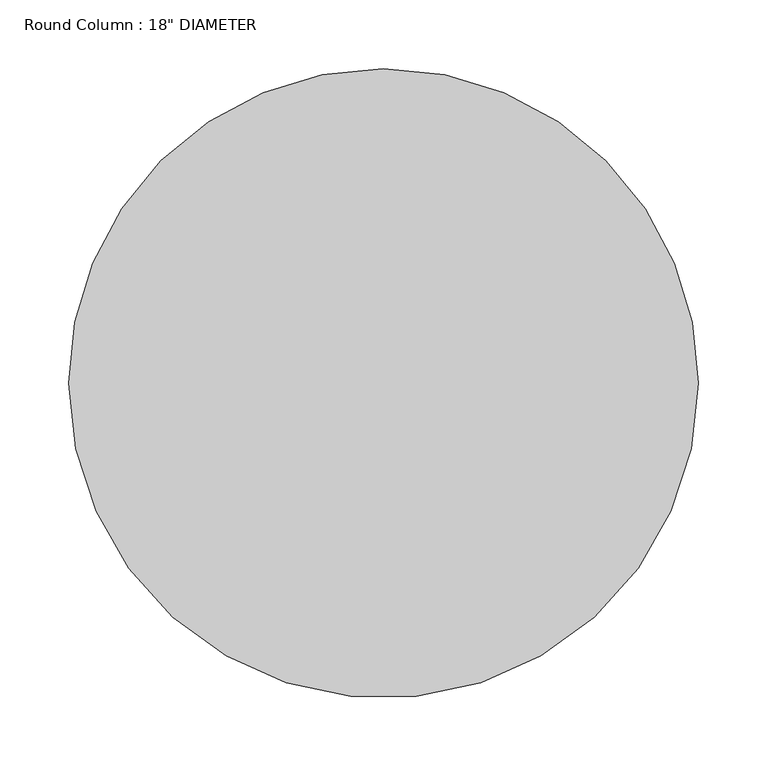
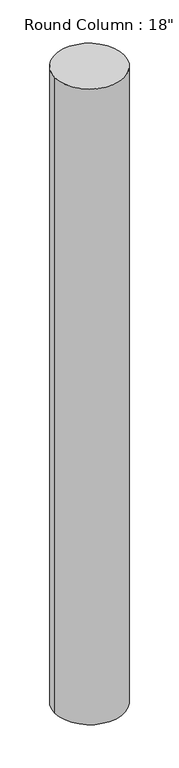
"""IFC4 building model written with IfcOpenShell, lengths in millimetres: column geometry."""

from ifc_helpers import new_model, si_unit, point, frame, origin, origin_2d, place, context, project, spatial, circle_curve, trimmed, segment, composite_curve, outline, extrude, source, transform, mapped, element, save


def column_3b8863fc(model_context):
    return source(origin(), model_context, "Body", "SweptSolid", [
        extrude(outline(composite_curve([segment(trimmed(circle_curve(origin_2d(), 228.6), [point((228.6, 0.0))], [point((-228.6, 0.0))], False, "CARTESIAN"), True, "CONTINUOUS"), segment(trimmed(circle_curve(origin_2d(), 228.6), [point((-228.6, 0.0))], [point((0.0, 228.6))], False, "CARTESIAN"), True, "CONTINUOUS"), segment(trimmed(circle_curve(origin_2d(), 228.6), [point((0.0, 228.6))], [point((228.6, 0.0))], False, "CARTESIAN"), True, "CONTINUOUS")], self_intersect=False)), frame((0.0, 0.0, 290080.7), z_axis=(0.0, 0.0, 1.0), x_axis=(1.0, 0.0, 0.0)), (0.0, 0.0, 1.0), 4445.0),
    ])


if __name__ == "__main__":
    model = new_model("IFC4")
    model_context = context("Model", 3, world=origin())
    ifc_project = project(units=[si_unit("LENGTHUNIT", "METRE", prefix="MILLI")], contexts=[model_context])
    site = spatial("IfcSite", under=ifc_project)
    building = spatial("IfcBuilding", under=site)
    placement = place(None, origin())
    column_shape = column_3b8863fc(model_context)
    element("IfcColumn", 1, ObjectType="Round Column : 18\" DIAMETER", at=placement, inside=building, context=model_context, shape_type="MappedRepresentation", body=[
        mapped(column_shape, transform((0.0, 0.0, 0.0), x_axis=(1.0, 0.0, 0.0), y_axis=(0.0, 1.0, 0.0), z_axis=(0.0, 0.0, 1.0))),
    ])
    save(model, "model.ifc")
